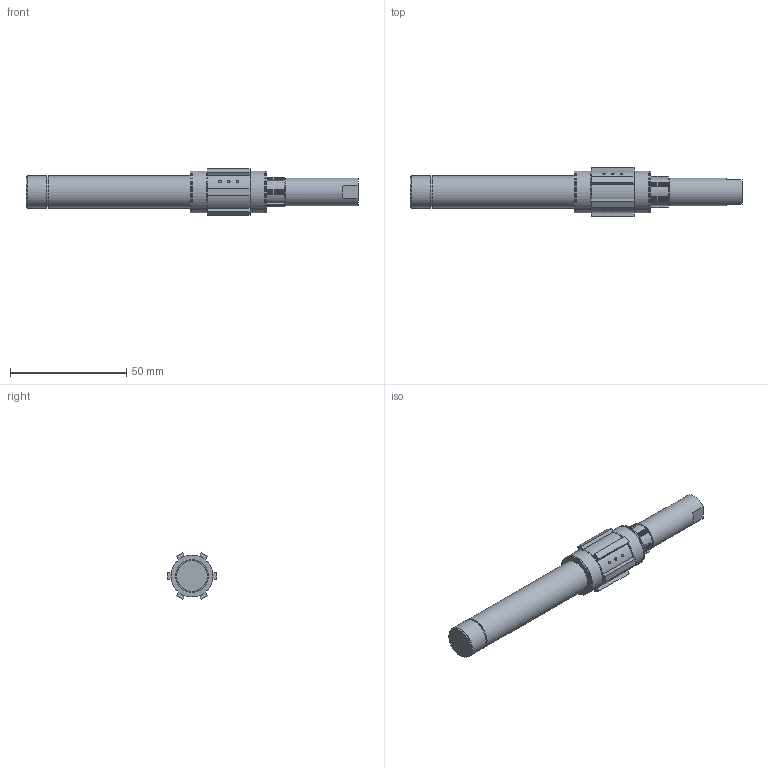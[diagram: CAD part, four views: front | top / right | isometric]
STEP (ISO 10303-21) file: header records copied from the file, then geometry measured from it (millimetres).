
FILE_DESCRIPTION(('Open CASCADE Model'),'2;1');
FILE_NAME('U_R12_local_12mm_shaft','2026-09-28T18:17:08',('Author'),( 'Open CASCADE'),'Open CASCADE STEP processor 7.9','build123d', 'Unknown');
FILE_SCHEMA(('AUTOMOTIVE_DESIGN { 1 0 10303 214 1 1 1 1 }'));
Length unit declared in the file: millimetre
Products named in the file (1): U_R12_local_12mm_shaft
Bounding box: 142.5 x 21.2 x 19.86 mm (x, y, z)
Volume: 24045.5 mm3; surface area: 7869.7 mm2
Topology: 1 solids, 1 shells, 225 faces, 601 edges, 400 vertices
Faces by surface type: plane 190, cylinder 26, sphere 9
Full cylindrical faces by diameter (mm): 4.2 x1, 11.6 x1, 12 x2, 13.2 x2, 14 x2, 17.7 x4, 18 x4
Entity records: 18174 total; most frequent: CARTESIAN_POINT 6008, DIRECTION 2253, LINE 1607, VECTOR 1607, ORIENTED_EDGE 1196, PCURVE 1196, DEFINITIONAL_REPRESENTATION 1196, EDGE_CURVE 598
